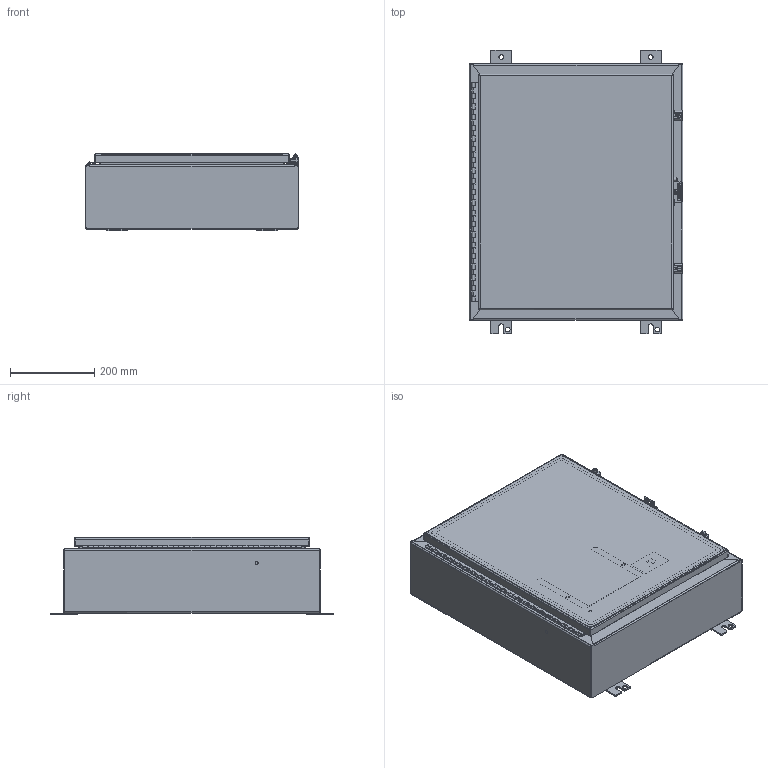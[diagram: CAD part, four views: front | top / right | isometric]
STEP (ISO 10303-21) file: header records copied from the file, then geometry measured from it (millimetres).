
FILE_DESCRIPTION((''),'2;1');
FILE_NAME('MODEL-303_ASM','2026-04-01T15:02:21',('ChadS'),('SAGINAW CONTROL & ENGINEERING'),'CREO PARAMETRIC BY PTC INC, 2021284','CREO PARAMETRIC BY PTC INC, 2021284','');
FILE_SCHEMA(('AUTOMOTIVE_DESIGN { 1 0 10303 214 1 1 1 1 }'));
Length unit declared in the file: inch
Products named in the file (30): MODEL-303-BDY; MODEL-303-TP; MODEL-303-BTM; MODEL-303-DR; 100837; 100882; 111541; 125597; 118919_DR; 118919_PIN; 118919_BX; 118919_STUD; 118919_ASM; 100897; MODEL-303-DOOR-GASKET; 128600; 102483; MODEL-303-DOOR-ASSY_ASM; 102211; 101653; 121452; 120131_BASE; 120131_CLAMP; 120131_SCREW; 120131_CLOSED_ASM; 120134; SUBPANEL; 100904; SUBPANEL-SUBASSEMBLY_ASM; MODEL-303_ASM
Assembly tree (52 placements, depth 4):
  MODEL-303_ASM
    MODEL-303-BDY
    MODEL-303-TP
    MODEL-303-BTM
    MODEL-303-DOOR-ASSY_ASM
      MODEL-303-DR
      100837  x3
      100882  x2
      111541
      125597
      118919_ASM
        118919_DR
        118919_PIN
        118919_BX
        118919_STUD  x4
      100897  x4
      MODEL-303-DOOR-GASKET
      128600
      102483
    102211  x4
    100837
    101653  x4
    121452
    120131_CLOSED_ASM  x2
      120131_BASE
      120131_CLAMP
      120131_SCREW
    100882  x3
    120134
    SUBPANEL-SUBASSEMBLY_ASM
      SUBPANEL
      100904  x4
Bounding box: 508 x 673.1 x 183.08 mm (x, y, z)
Volume: 3173579.6 mm3; surface area: 2907774.4 mm2
Topology: 49 solids, 49 shells, 3489 faces, 9056 edges, 5702 vertices
Faces by surface type: plane 1412, bspline 913, cylinder 777, torus 210, sphere 93, cone 84
Entity records: 94311 total; most frequent: CARTESIAN_POINT 30235, ORIENTED_EDGE 9486, DIRECTION 8573, PRESENTATION_STYLE_ASSIGNMENT 4874, STYLED_ITEM 4872, CURVE_STYLE 4743, EDGE_CURVE 4743, VERTEX_POINT 2992
